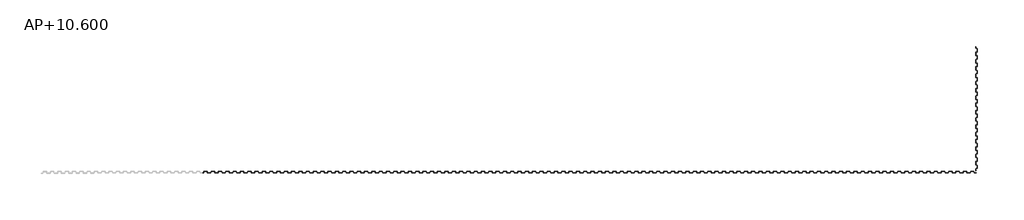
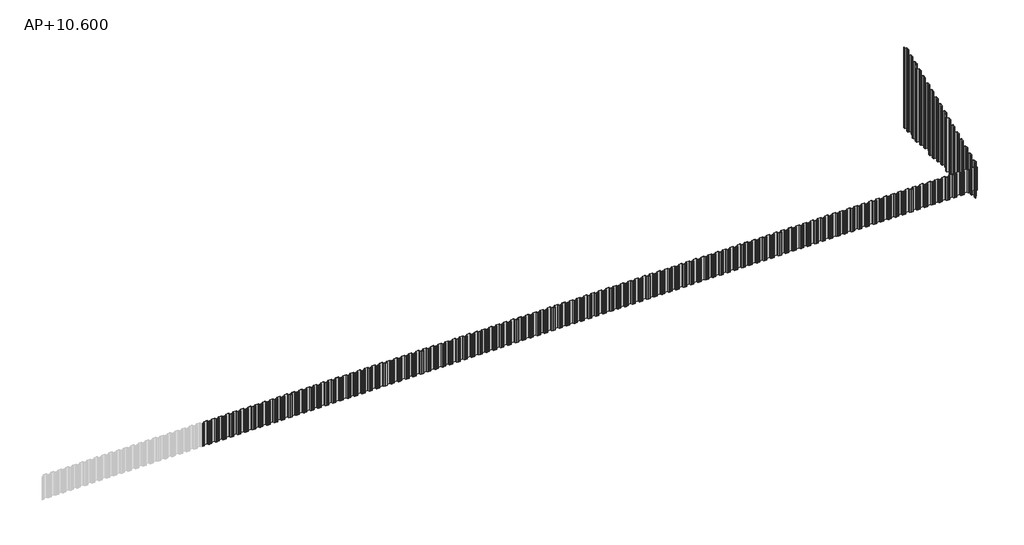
# One storey, part 2 of 2: 123 proxies.
"""IFC4 building model written with IfcOpenShell, lengths in millimetres."""

from ifc_helpers import new_model, si_unit, origin, place, context, project, spatial, transform, mapped, element, save
from components import generic_models_baafeade, generic_models_cdec1266, generic_models_6a52f8d3, generic_models_769bab11, generic_models_eddb28b0, generic_models_b851e550, generic_models_f981eec5, generic_models_fa2cd2e8, generic_models_5c6d3e61, generic_models_5d25678b, generic_models_d380ba2e, generic_models_831c492c, generic_models_77be9fe8, generic_models_16d24312

model = new_model("IFC4")

# Units and contexts
model_context = context("Model", 3, world=origin())
ifc_project = project(units=[si_unit("LENGTHUNIT", "METRE", prefix="MILLI")], contexts=[model_context])

# Site, building, storey
site = spatial("IfcSite", under=ifc_project)
building = spatial("IfcBuilding", under=site)
storey = spatial("IfcBuildingStorey", under=building, Name="AP+10.600", Elevation=10600.0)

# Proxies
placement = place(None, origin())
generic_models_shape = generic_models_baafeade(model_context)
element("IfcBuildingElementProxy", 1, Name="鋼矢板10H型 : 鋼矢板10H型", ObjectType="鋼矢板10H型 : 鋼矢板10H型", at=placement, inside=storey, context=model_context, shape_type="MappedRepresentation", body=[
    mapped(generic_models_shape, transform((89232.0, -15450.0, 9950.0), x_axis=(1.0, 0.0, 0.0), y_axis=(0.0, 1.0, 0.0), z_axis=(0.0, 0.0, 1.0))),
])
element("IfcBuildingElementProxy", 2, Name="鋼矢板10H型 : 鋼矢板10H型", ObjectType="鋼矢板10H型 : 鋼矢板10H型", at=placement, inside=storey, context=model_context, shape_type="MappedRepresentation", body=[
    mapped(generic_models_shape, transform((88332.0, -15450.0, 9950.0), x_axis=(1.0, 0.0, 0.0), y_axis=(0.0, 1.0, 0.0), z_axis=(0.0, 0.0, 1.0))),
])
element("IfcBuildingElementProxy", 3, Name="鋼矢板10H型 : 鋼矢板10H型", ObjectType="鋼矢板10H型 : 鋼矢板10H型", at=placement, inside=storey, context=model_context, shape_type="MappedRepresentation", body=[
    mapped(generic_models_shape, transform((87432.0, -15450.0, 9950.0), x_axis=(1.0, 0.0, 0.0), y_axis=(0.0, 1.0, 0.0), z_axis=(0.0, 0.0, 1.0))),
])
element("IfcBuildingElementProxy", 4, Name="鋼矢板10H型 : 鋼矢板10H型", ObjectType="鋼矢板10H型 : 鋼矢板10H型", at=placement, inside=storey, context=model_context, shape_type="MappedRepresentation", body=[
    mapped(generic_models_shape, transform((86532.0, -15450.0, 9950.0), x_axis=(1.0, 0.0, 0.0), y_axis=(0.0, 1.0, 0.0), z_axis=(0.0, 0.0, 1.0))),
])
element("IfcBuildingElementProxy", 5, Name="鋼矢板10H型 : 鋼矢板10H型", ObjectType="鋼矢板10H型 : 鋼矢板10H型", at=placement, inside=storey, context=model_context, shape_type="MappedRepresentation", body=[
    mapped(generic_models_shape, transform((85632.0, -15450.0, 9950.0), x_axis=(1.0, 0.0, 0.0), y_axis=(0.0, 1.0, 0.0), z_axis=(0.0, 0.0, 1.0))),
])
element("IfcBuildingElementProxy", 6, Name="鋼矢板10H型 : 鋼矢板10H型", ObjectType="鋼矢板10H型 : 鋼矢板10H型", at=placement, inside=storey, context=model_context, shape_type="MappedRepresentation", body=[
    mapped(generic_models_shape, transform((84732.0, -15450.0, 9950.0), x_axis=(1.0, 0.0, 0.0), y_axis=(0.0, 1.0, 0.0), z_axis=(0.0, 0.0, 1.0))),
])
element("IfcBuildingElementProxy", 7, Name="鋼矢板10H型 : 鋼矢板10H型", ObjectType="鋼矢板10H型 : 鋼矢板10H型", at=placement, inside=storey, context=model_context, shape_type="MappedRepresentation", body=[
    mapped(generic_models_shape, transform((83832.0, -15450.0, 9950.0), x_axis=(1.0, 0.0, 0.0), y_axis=(0.0, 1.0, 0.0), z_axis=(0.0, 0.0, 1.0))),
])
element("IfcBuildingElementProxy", 8, Name="鋼矢板10H型 : 鋼矢板10H型", ObjectType="鋼矢板10H型 : 鋼矢板10H型", at=placement, inside=storey, context=model_context, shape_type="MappedRepresentation", body=[
    mapped(generic_models_shape, transform((82932.0, -15450.0, 9950.0), x_axis=(1.0, 0.0, 0.0), y_axis=(0.0, 1.0, 0.0), z_axis=(0.0, 0.0, 1.0))),
])
element("IfcBuildingElementProxy", 9, Name="鋼矢板10H型 : 鋼矢板10H型", ObjectType="鋼矢板10H型 : 鋼矢板10H型", at=placement, inside=storey, context=model_context, shape_type="MappedRepresentation", body=[
    mapped(generic_models_shape, transform((82032.0, -15450.0, 9950.0), x_axis=(1.0, 0.0, 0.0), y_axis=(0.0, 1.0, 0.0), z_axis=(0.0, 0.0, 1.0))),
])
element("IfcBuildingElementProxy", 10, Name="鋼矢板10H型 : 鋼矢板10H型", ObjectType="鋼矢板10H型 : 鋼矢板10H型", at=placement, inside=storey, context=model_context, shape_type="MappedRepresentation", body=[
    mapped(generic_models_shape, transform((81132.0, -15450.0, 9950.0), x_axis=(1.0, 0.0, 0.0), y_axis=(0.0, 1.0, 0.0), z_axis=(0.0, 0.0, 1.0))),
])
element("IfcBuildingElementProxy", 11, Name="鋼矢板10H型 : 鋼矢板10H型", ObjectType="鋼矢板10H型 : 鋼矢板10H型", at=placement, inside=storey, context=model_context, shape_type="MappedRepresentation", body=[
    mapped(generic_models_shape, transform((80232.0, -15450.0, 9950.0), x_axis=(1.0, 0.0, 0.0), y_axis=(0.0, 1.0, 0.0), z_axis=(0.0, 0.0, 1.0))),
])
element("IfcBuildingElementProxy", 12, Name="鋼矢板10H型 : 鋼矢板10H型", ObjectType="鋼矢板10H型 : 鋼矢板10H型", at=placement, inside=storey, context=model_context, shape_type="MappedRepresentation", body=[
    mapped(generic_models_shape, transform((79332.0, -15450.0, 9950.0), x_axis=(1.0, 0.0, 0.0), y_axis=(0.0, 1.0, 0.0), z_axis=(0.0, 0.0, 1.0))),
])
element("IfcBuildingElementProxy", 13, Name="鋼矢板10H型 : 鋼矢板10H型", ObjectType="鋼矢板10H型 : 鋼矢板10H型", at=placement, inside=storey, context=model_context, shape_type="MappedRepresentation", body=[
    mapped(generic_models_shape, transform((78432.0, -15450.0, 9950.0), x_axis=(1.0, 0.0, 0.0), y_axis=(0.0, 1.0, 0.0), z_axis=(0.0, 0.0, 1.0))),
])
element("IfcBuildingElementProxy", 14, Name="鋼矢板10H型 : 鋼矢板10H型", ObjectType="鋼矢板10H型 : 鋼矢板10H型", at=placement, inside=storey, context=model_context, shape_type="MappedRepresentation", body=[
    mapped(generic_models_shape, transform((77532.0, -15450.0, 9950.0), x_axis=(1.0, 0.0, 0.0), y_axis=(0.0, 1.0, 0.0), z_axis=(0.0, 0.0, 1.0))),
])
element("IfcBuildingElementProxy", 15, Name="鋼矢板10H型 : 鋼矢板10H型", ObjectType="鋼矢板10H型 : 鋼矢板10H型", at=placement, inside=storey, context=model_context, shape_type="MappedRepresentation", body=[
    mapped(generic_models_shape, transform((76632.0, -15450.0, 9950.0), x_axis=(1.0, 0.0, 0.0), y_axis=(0.0, 1.0, 0.0), z_axis=(0.0, 0.0, 1.0))),
])
element("IfcBuildingElementProxy", 16, Name="鋼矢板10H型 : 鋼矢板10H型", ObjectType="鋼矢板10H型 : 鋼矢板10H型", at=placement, inside=storey, context=model_context, shape_type="MappedRepresentation", body=[
    mapped(generic_models_shape, transform((75732.0, -15450.0, 9950.0), x_axis=(1.0, 0.0, 0.0), y_axis=(0.0, 1.0, 0.0), z_axis=(0.0, 0.0, 1.0))),
])
element("IfcBuildingElementProxy", 17, Name="鋼矢板10H型 : 鋼矢板10H型", ObjectType="鋼矢板10H型 : 鋼矢板10H型", at=placement, inside=storey, context=model_context, shape_type="MappedRepresentation", body=[
    mapped(generic_models_shape, transform((74832.0, -15450.0, 9950.0), x_axis=(1.0, 0.0, 0.0), y_axis=(0.0, 1.0, 0.0), z_axis=(0.0, 0.0, 1.0))),
])
element("IfcBuildingElementProxy", 18, Name="鋼矢板10H型 : 鋼矢板10H型", ObjectType="鋼矢板10H型 : 鋼矢板10H型", at=placement, inside=storey, context=model_context, shape_type="MappedRepresentation", body=[
    mapped(generic_models_shape, transform((73932.0, -15450.0, 9950.0), x_axis=(1.0, 0.0, 0.0), y_axis=(0.0, 1.0, 0.0), z_axis=(0.0, 0.0, 1.0))),
])
element("IfcBuildingElementProxy", 19, Name="鋼矢板10H型 : 鋼矢板10H型", ObjectType="鋼矢板10H型 : 鋼矢板10H型", at=placement, inside=storey, context=model_context, shape_type="MappedRepresentation", body=[
    mapped(generic_models_shape, transform((73032.0, -15450.0, 9950.0), x_axis=(1.0, 0.0, 0.0), y_axis=(0.0, 1.0, 0.0), z_axis=(0.0, 0.0, 1.0))),
])
element("IfcBuildingElementProxy", 20, Name="鋼矢板10H型 : 鋼矢板10H型", ObjectType="鋼矢板10H型 : 鋼矢板10H型", at=placement, inside=storey, context=model_context, shape_type="MappedRepresentation", body=[
    mapped(generic_models_shape, transform((72132.0, -15450.0, 9950.0), x_axis=(1.0, 0.0, 0.0), y_axis=(0.0, 1.0, 0.0), z_axis=(0.0, 0.0, 1.0))),
])
element("IfcBuildingElementProxy", 21, Name="鋼矢板10H型 : 鋼矢板10H型", ObjectType="鋼矢板10H型 : 鋼矢板10H型", at=placement, inside=storey, context=model_context, shape_type="MappedRepresentation", body=[
    mapped(generic_models_shape, transform((71232.0, -15450.0, 9950.0), x_axis=(1.0, 0.0, 0.0), y_axis=(0.0, 1.0, 0.0), z_axis=(0.0, 0.0, 1.0))),
])
element("IfcBuildingElementProxy", 22, Name="鋼矢板10H型 : 鋼矢板10H型", ObjectType="鋼矢板10H型 : 鋼矢板10H型", at=placement, inside=storey, context=model_context, shape_type="MappedRepresentation", body=[
    mapped(generic_models_shape, transform((70332.0, -15450.0, 9950.0), x_axis=(1.0, 0.0, 0.0), y_axis=(0.0, 1.0, 0.0), z_axis=(0.0, 0.0, 1.0))),
])
element("IfcBuildingElementProxy", 23, Name="鋼矢板10H型 : 鋼矢板10H型", ObjectType="鋼矢板10H型 : 鋼矢板10H型", at=placement, inside=storey, context=model_context, shape_type="MappedRepresentation", body=[
    mapped(generic_models_shape, transform((69432.0, -15450.0, 9950.0), x_axis=(1.0, 0.0, 0.0), y_axis=(0.0, 1.0, 0.0), z_axis=(0.0, 0.0, 1.0))),
])
element("IfcBuildingElementProxy", 24, Name="鋼矢板10H型 : 鋼矢板10H型", ObjectType="鋼矢板10H型 : 鋼矢板10H型", at=placement, inside=storey, context=model_context, shape_type="MappedRepresentation", body=[
    mapped(generic_models_shape, transform((68532.0, -15450.0, 9950.0), x_axis=(1.0, 0.0, 0.0), y_axis=(0.0, 1.0, 0.0), z_axis=(0.0, 0.0, 1.0))),
])
element("IfcBuildingElementProxy", 25, Name="鋼矢板10H型 : 鋼矢板10H型", ObjectType="鋼矢板10H型 : 鋼矢板10H型", at=placement, inside=storey, context=model_context, shape_type="MappedRepresentation", body=[
    mapped(generic_models_shape, transform((67632.0, -15450.0, 9950.0), x_axis=(1.0, 0.0, 0.0), y_axis=(0.0, 1.0, 0.0), z_axis=(0.0, 0.0, 1.0))),
])
element("IfcBuildingElementProxy", 26, Name="鋼矢板10H型 : 鋼矢板10H型", ObjectType="鋼矢板10H型 : 鋼矢板10H型", at=placement, inside=storey, context=model_context, shape_type="MappedRepresentation", body=[
    mapped(generic_models_shape, transform((66732.0, -15450.0, 9950.0), x_axis=(1.0, 0.0, 0.0), y_axis=(0.0, 1.0, 0.0), z_axis=(0.0, 0.0, 1.0))),
])
element("IfcBuildingElementProxy", 27, Name="鋼矢板10H型 : 鋼矢板10H型", ObjectType="鋼矢板10H型 : 鋼矢板10H型", at=placement, inside=storey, context=model_context, shape_type="MappedRepresentation", body=[
    mapped(generic_models_shape, transform((65832.0, -15450.0, 9950.0), x_axis=(1.0, 0.0, 0.0), y_axis=(0.0, 1.0, 0.0), z_axis=(0.0, 0.0, 1.0))),
])
element("IfcBuildingElementProxy", 28, Name="鋼矢板10H型 : 鋼矢板10H型", ObjectType="鋼矢板10H型 : 鋼矢板10H型", at=placement, inside=storey, context=model_context, shape_type="MappedRepresentation", body=[
    mapped(generic_models_shape, transform((64932.0, -15450.0, 9950.0), x_axis=(1.0, 0.0, 0.0), y_axis=(0.0, 1.0, 0.0), z_axis=(0.0, 0.0, 1.0))),
])
element("IfcBuildingElementProxy", 29, Name="鋼矢板10H型 : 鋼矢板10H型", ObjectType="鋼矢板10H型 : 鋼矢板10H型", at=placement, inside=storey, context=model_context, shape_type="MappedRepresentation", body=[
    mapped(generic_models_shape, transform((64032.0, -15450.0, 9950.0), x_axis=(1.0, 0.0, 0.0), y_axis=(0.0, 1.0, 0.0), z_axis=(0.0, 0.0, 1.0))),
])
element("IfcBuildingElementProxy", 30, Name="鋼矢板10H型 : 鋼矢板10H型", ObjectType="鋼矢板10H型 : 鋼矢板10H型", at=placement, inside=storey, context=model_context, shape_type="MappedRepresentation", body=[
    mapped(generic_models_shape, transform((63132.0, -15450.0, 9950.0), x_axis=(1.0, 0.0, 0.0), y_axis=(0.0, 1.0, 0.0), z_axis=(0.0, 0.0, 1.0))),
])
element("IfcBuildingElementProxy", 31, Name="鋼矢板10H型 : 鋼矢板10H型", ObjectType="鋼矢板10H型 : 鋼矢板10H型", at=placement, inside=storey, context=model_context, shape_type="MappedRepresentation", body=[
    mapped(generic_models_shape, transform((62232.0, -15450.0, 9950.0), x_axis=(1.0, 0.0, 0.0), y_axis=(0.0, 1.0, 0.0), z_axis=(0.0, 0.0, 1.0))),
])
element("IfcBuildingElementProxy", 32, Name="鋼矢板10H型 : 鋼矢板10H型", ObjectType="鋼矢板10H型 : 鋼矢板10H型", at=placement, inside=storey, context=model_context, shape_type="MappedRepresentation", body=[
    mapped(generic_models_shape, transform((61332.0, -15450.0, 9950.0), x_axis=(1.0, 0.0, 0.0), y_axis=(0.0, 1.0, 0.0), z_axis=(0.0, 0.0, 1.0))),
])
element("IfcBuildingElementProxy", 33, Name="鋼矢板10H型 : 鋼矢板10H型", ObjectType="鋼矢板10H型 : 鋼矢板10H型", at=placement, inside=storey, context=model_context, shape_type="MappedRepresentation", body=[
    mapped(generic_models_shape, transform((60432.0, -15450.0, 9950.0), x_axis=(1.0, 0.0, 0.0), y_axis=(0.0, 1.0, 0.0), z_axis=(0.0, 0.0, 1.0))),
])
element("IfcBuildingElementProxy", 34, Name="鋼矢板10H型 : 鋼矢板10H型", ObjectType="鋼矢板10H型 : 鋼矢板10H型", at=placement, inside=storey, context=model_context, shape_type="MappedRepresentation", body=[
    mapped(generic_models_shape, transform((59532.0, -15450.0, 9950.0), x_axis=(1.0, 0.0, 0.0), y_axis=(0.0, 1.0, 0.0), z_axis=(0.0, 0.0, 1.0))),
])
element("IfcBuildingElementProxy", 35, Name="鋼矢板10H型 : 鋼矢板10H型", ObjectType="鋼矢板10H型 : 鋼矢板10H型", at=placement, inside=storey, context=model_context, shape_type="MappedRepresentation", body=[
    mapped(generic_models_shape, transform((58632.0, -15450.0, 9950.0), x_axis=(1.0, 0.0, 0.0), y_axis=(0.0, 1.0, 0.0), z_axis=(0.0, 0.0, 1.0))),
])
element("IfcBuildingElementProxy", 36, Name="鋼矢板10H型 : 鋼矢板10H型", ObjectType="鋼矢板10H型 : 鋼矢板10H型", at=placement, inside=storey, context=model_context, shape_type="MappedRepresentation", body=[
    mapped(generic_models_shape, transform((57732.0, -15450.0, 9950.0), x_axis=(1.0, 0.0, 0.0), y_axis=(0.0, 1.0, 0.0), z_axis=(0.0, 0.0, 1.0))),
])
element("IfcBuildingElementProxy", 37, Name="鋼矢板10H型 : 鋼矢板10H型", ObjectType="鋼矢板10H型 : 鋼矢板10H型", at=placement, inside=storey, context=model_context, shape_type="MappedRepresentation", body=[
    mapped(generic_models_shape, transform((56832.0, -15450.0, 9950.0), x_axis=(1.0, 0.0, 0.0), y_axis=(0.0, 1.0, 0.0), z_axis=(0.0, 0.0, 1.0))),
])
element("IfcBuildingElementProxy", 38, Name="鋼矢板10H型 : 鋼矢板10H型", ObjectType="鋼矢板10H型 : 鋼矢板10H型", at=placement, inside=storey, context=model_context, shape_type="MappedRepresentation", body=[
    mapped(generic_models_shape, transform((55932.0, -15450.0, 9950.0), x_axis=(1.0, 0.0, 0.0), y_axis=(0.0, 1.0, 0.0), z_axis=(0.0, 0.0, 1.0))),
])
element("IfcBuildingElementProxy", 39, Name="鋼矢板10H型 : 鋼矢板10H型", ObjectType="鋼矢板10H型 : 鋼矢板10H型", at=placement, inside=storey, context=model_context, shape_type="MappedRepresentation", body=[
    mapped(generic_models_shape, transform((55032.0, -15450.0, 9950.0), x_axis=(1.0, 0.0, 0.0), y_axis=(0.0, 1.0, 0.0), z_axis=(0.0, 0.0, 1.0))),
])
element("IfcBuildingElementProxy", 40, Name="鋼矢板10H型 : 鋼矢板10H型", ObjectType="鋼矢板10H型 : 鋼矢板10H型", at=placement, inside=storey, context=model_context, shape_type="MappedRepresentation", body=[
    mapped(generic_models_shape, transform((54132.0, -15450.0, 9950.0), x_axis=(1.0, 0.0, 0.0), y_axis=(0.0, 1.0, 0.0), z_axis=(0.0, 0.0, 1.0))),
])
element("IfcBuildingElementProxy", 41, Name="鋼矢板10H型 : 鋼矢板10H型", ObjectType="鋼矢板10H型 : 鋼矢板10H型", at=placement, inside=storey, context=model_context, shape_type="MappedRepresentation", body=[
    mapped(generic_models_shape, transform((53232.0, -15450.0, 9950.0), x_axis=(1.0, 0.0, 0.0), y_axis=(0.0, 1.0, 0.0), z_axis=(0.0, 0.0, 1.0))),
])
element("IfcBuildingElementProxy", 42, Name="鋼矢板10H型 : 鋼矢板10H型", ObjectType="鋼矢板10H型 : 鋼矢板10H型", at=placement, inside=storey, context=model_context, shape_type="MappedRepresentation", body=[
    mapped(generic_models_shape, transform((52332.0, -15450.0, 9950.0), x_axis=(1.0, 0.0, 0.0), y_axis=(0.0, 1.0, 0.0), z_axis=(0.0, 0.0, 1.0))),
])
element("IfcBuildingElementProxy", 43, Name="鋼矢板10H型 : 鋼矢板10H型", ObjectType="鋼矢板10H型 : 鋼矢板10H型", at=placement, inside=storey, context=model_context, shape_type="MappedRepresentation", body=[
    mapped(generic_models_shape, transform((51432.0, -15450.0, 9950.0), x_axis=(1.0, 0.0, 0.0), y_axis=(0.0, 1.0, 0.0), z_axis=(0.0, 0.0, 1.0))),
])
element("IfcBuildingElementProxy", 44, Name="鋼矢板10H型 : 鋼矢板10H型", ObjectType="鋼矢板10H型 : 鋼矢板10H型", at=placement, inside=storey, context=model_context, shape_type="MappedRepresentation", body=[
    mapped(generic_models_shape, transform((50532.0, -15450.0, 9950.0), x_axis=(1.0, 0.0, 0.0), y_axis=(0.0, 1.0, 0.0), z_axis=(0.0, 0.0, 1.0))),
])
element("IfcBuildingElementProxy", 45, Name="鋼矢板10H型 : 鋼矢板10H型", ObjectType="鋼矢板10H型 : 鋼矢板10H型", at=placement, inside=storey, context=model_context, shape_type="MappedRepresentation", body=[
    mapped(generic_models_shape, transform((49632.0, -15450.0, 9950.0), x_axis=(1.0, 0.0, 0.0), y_axis=(0.0, 1.0, 0.0), z_axis=(0.0, 0.0, 1.0))),
])
element("IfcBuildingElementProxy", 46, Name="鋼矢板10H型 : 鋼矢板10H型", ObjectType="鋼矢板10H型 : 鋼矢板10H型", at=placement, inside=storey, context=model_context, shape_type="MappedRepresentation", body=[
    mapped(generic_models_shape, transform((48732.0, -15450.0, 9950.0), x_axis=(1.0, 0.0, 0.0), y_axis=(0.0, 1.0, 0.0), z_axis=(0.0, 0.0, 1.0))),
])
element("IfcBuildingElementProxy", 47, Name="鋼矢板10H型 : 鋼矢板10H型", ObjectType="鋼矢板10H型 : 鋼矢板10H型", at=placement, inside=storey, context=model_context, shape_type="MappedRepresentation", body=[
    mapped(generic_models_shape, transform((47832.0, -15450.0, 9950.0), x_axis=(1.0, 0.0, 0.0), y_axis=(0.0, 1.0, 0.0), z_axis=(0.0, 0.0, 1.0))),
])
element("IfcBuildingElementProxy", 48, Name="鋼矢板10H型 : 鋼矢板10H型", ObjectType="鋼矢板10H型 : 鋼矢板10H型", at=placement, inside=storey, context=model_context, shape_type="MappedRepresentation", body=[
    mapped(generic_models_shape, transform((46932.0, -15450.0, 9950.0), x_axis=(1.0, 0.0, 0.0), y_axis=(0.0, 1.0, 0.0), z_axis=(0.0, 0.0, 1.0))),
])
element("IfcBuildingElementProxy", 49, Name="鋼矢板10H型 : 鋼矢板10H型", ObjectType="鋼矢板10H型 : 鋼矢板10H型", at=placement, inside=storey, context=model_context, shape_type="MappedRepresentation", body=[
    mapped(generic_models_shape, transform((46032.0, -15450.0, 9950.0), x_axis=(1.0, 0.0, 0.0), y_axis=(0.0, 1.0, 0.0), z_axis=(0.0, 0.0, 1.0))),
])
element("IfcBuildingElementProxy", 50, Name="鋼矢板10H型 : 鋼矢板10H型", ObjectType="鋼矢板10H型 : 鋼矢板10H型", at=placement, inside=storey, context=model_context, shape_type="MappedRepresentation", body=[
    mapped(generic_models_shape, transform((45132.0, -15450.0, 9950.0), x_axis=(1.0, 0.0, 0.0), y_axis=(0.0, 1.0, 0.0), z_axis=(0.0, 0.0, 1.0))),
])
element("IfcBuildingElementProxy", 51, Name="鋼矢板10H型 : 鋼矢板10H型", ObjectType="鋼矢板10H型 : 鋼矢板10H型", at=placement, inside=storey, context=model_context, shape_type="MappedRepresentation", body=[
    mapped(generic_models_shape, transform((44232.0, -15450.0, 9950.0), x_axis=(1.0, 0.0, 0.0), y_axis=(0.0, 1.0, 0.0), z_axis=(0.0, 0.0, 1.0))),
])
element("IfcBuildingElementProxy", 52, Name="鋼矢板10H型 : 鋼矢板10H型", ObjectType="鋼矢板10H型 : 鋼矢板10H型", at=placement, inside=storey, context=model_context, shape_type="MappedRepresentation", body=[
    mapped(generic_models_shape, transform((43332.0, -15450.0, 9950.0), x_axis=(1.0, 0.0, 0.0), y_axis=(0.0, 1.0, 0.0), z_axis=(0.0, 0.0, 1.0))),
])
element("IfcBuildingElementProxy", 53, Name="鋼矢板10H型 : 鋼矢板10H型", ObjectType="鋼矢板10H型 : 鋼矢板10H型", at=placement, inside=storey, context=model_context, shape_type="MappedRepresentation", body=[
    mapped(generic_models_shape, transform((42432.0, -15450.0, 9950.0), x_axis=(1.0, 0.0, 0.0), y_axis=(0.0, 1.0, 0.0), z_axis=(0.0, 0.0, 1.0))),
])
element("IfcBuildingElementProxy", 54, Name="鋼矢板10H型 : 鋼矢板10H型", ObjectType="鋼矢板10H型 : 鋼矢板10H型", at=placement, inside=storey, context=model_context, shape_type="MappedRepresentation", body=[
    mapped(generic_models_shape, transform((41532.0, -15450.0, 9950.0), x_axis=(1.0, 0.0, 0.0), y_axis=(0.0, 1.0, 0.0), z_axis=(0.0, 0.0, 1.0))),
])
element("IfcBuildingElementProxy", 55, Name="鋼矢板10H型 : 鋼矢板10H型", ObjectType="鋼矢板10H型 : 鋼矢板10H型", at=placement, inside=storey, context=model_context, shape_type="MappedRepresentation", body=[
    mapped(generic_models_shape, transform((40632.0, -15450.0, 9950.0), x_axis=(1.0, 0.0, 0.0), y_axis=(0.0, 1.0, 0.0), z_axis=(0.0, 0.0, 1.0))),
])
element("IfcBuildingElementProxy", 56, Name="鋼矢板10H型 : 鋼矢板10H型", ObjectType="鋼矢板10H型 : 鋼矢板10H型", at=placement, inside=storey, context=model_context, shape_type="MappedRepresentation", body=[
    mapped(generic_models_shape, transform((39732.0, -15450.0, 9950.0), x_axis=(1.0, 0.0, 0.0), y_axis=(0.0, 1.0, 0.0), z_axis=(0.0, 0.0, 1.0))),
])
element("IfcBuildingElementProxy", 57, Name="鋼矢板10H型 : 鋼矢板10H型", ObjectType="鋼矢板10H型 : 鋼矢板10H型", at=placement, inside=storey, context=model_context, shape_type="MappedRepresentation", body=[
    mapped(generic_models_shape, transform((38832.0, -15450.0, 9950.0), x_axis=(1.0, 0.0, 0.0), y_axis=(0.0, 1.0, 0.0), z_axis=(0.0, 0.0, 1.0))),
])
element("IfcBuildingElementProxy", 58, Name="鋼矢板10H型 : 鋼矢板10H型", ObjectType="鋼矢板10H型 : 鋼矢板10H型", at=placement, inside=storey, context=model_context, shape_type="MappedRepresentation", body=[
    mapped(generic_models_shape, transform((37932.0, -15450.0, 9950.0), x_axis=(1.0, 0.0, 0.0), y_axis=(0.0, 1.0, 0.0), z_axis=(0.0, 0.0, 1.0))),
])
element("IfcBuildingElementProxy", 59, Name="鋼矢板10H型 : 鋼矢板10H型", ObjectType="鋼矢板10H型 : 鋼矢板10H型", at=placement, inside=storey, context=model_context, shape_type="MappedRepresentation", body=[
    mapped(generic_models_shape, transform((37032.0, -15450.0, 9950.0), x_axis=(1.0, 0.0, 0.0), y_axis=(0.0, 1.0, 0.0), z_axis=(0.0, 0.0, 1.0))),
])
element("IfcBuildingElementProxy", 60, Name="鋼矢板10H型 : 鋼矢板10H型", ObjectType="鋼矢板10H型 : 鋼矢板10H型", at=placement, inside=storey, context=model_context, shape_type="MappedRepresentation", body=[
    mapped(generic_models_shape, transform((36132.0, -15450.0, 9950.0), x_axis=(1.0, 0.0, 0.0), y_axis=(0.0, 1.0, 0.0), z_axis=(0.0, 0.0, 1.0))),
])
element("IfcBuildingElementProxy", 61, Name="鋼矢板10H型 : 鋼矢板10H型", ObjectType="鋼矢板10H型 : 鋼矢板10H型", at=placement, inside=storey, context=model_context, shape_type="MappedRepresentation", body=[
    mapped(generic_models_shape, transform((35232.0, -15450.0, 9950.0), x_axis=(1.0, 0.0, 0.0), y_axis=(0.0, 1.0, 0.0), z_axis=(0.0, 0.0, 1.0))),
])
element("IfcBuildingElementProxy", 62, Name="鋼矢板10H型 : 鋼矢板10H型", ObjectType="鋼矢板10H型 : 鋼矢板10H型", at=placement, inside=storey, context=model_context, shape_type="MappedRepresentation", body=[
    mapped(generic_models_shape, transform((34332.0, -15450.0, 9950.0), x_axis=(1.0, 0.0, 0.0), y_axis=(0.0, 1.0, 0.0), z_axis=(0.0, 0.0, 1.0))),
])
element("IfcBuildingElementProxy", 63, Name="鋼矢板10H型 : 鋼矢板10H型", ObjectType="鋼矢板10H型 : 鋼矢板10H型", at=placement, inside=storey, context=model_context, shape_type="MappedRepresentation", body=[
    mapped(generic_models_shape, transform((33432.0, -15450.0, 9950.0), x_axis=(1.0, 0.0, 0.0), y_axis=(0.0, 1.0, 0.0), z_axis=(0.0, 0.0, 1.0))),
])
element("IfcBuildingElementProxy", 64, Name="鋼矢板10H型 : 鋼矢板10H型", ObjectType="鋼矢板10H型 : 鋼矢板10H型", at=placement, inside=storey, context=model_context, shape_type="MappedRepresentation", body=[
    mapped(generic_models_shape, transform((32532.0, -15450.0, 9950.0), x_axis=(1.0, 0.0, 0.0), y_axis=(0.0, 1.0, 0.0), z_axis=(0.0, 0.0, 1.0))),
])
element("IfcBuildingElementProxy", 65, Name="鋼矢板10H型 : 鋼矢板10H型", ObjectType="鋼矢板10H型 : 鋼矢板10H型", at=placement, inside=storey, context=model_context, shape_type="MappedRepresentation", body=[
    mapped(generic_models_shape, transform((31632.0, -15450.0, 9950.0), x_axis=(1.0, 0.0, 0.0), y_axis=(0.0, 1.0, 0.0), z_axis=(0.0, 0.0, 1.0))),
])
element("IfcBuildingElementProxy", 66, Name="鋼矢板10H型 : 鋼矢板10H型", ObjectType="鋼矢板10H型 : 鋼矢板10H型", at=placement, inside=storey, context=model_context, shape_type="MappedRepresentation", body=[
    mapped(generic_models_shape, transform((30732.0, -15450.0, 9950.0), x_axis=(1.0, 0.0, 0.0), y_axis=(0.0, 1.0, 0.0), z_axis=(0.0, 0.0, 1.0))),
])
element("IfcBuildingElementProxy", 67, Name="鋼矢板10H型 : 鋼矢板10H型", ObjectType="鋼矢板10H型 : 鋼矢板10H型", at=placement, inside=storey, context=model_context, shape_type="MappedRepresentation", body=[
    mapped(generic_models_shape, transform((29832.0, -15450.0, 9950.0), x_axis=(1.0, 0.0, 0.0), y_axis=(0.0, 1.0, 0.0), z_axis=(0.0, 0.0, 1.0))),
])
element("IfcBuildingElementProxy", 68, Name="鋼矢板10H型 : 鋼矢板10H型", ObjectType="鋼矢板10H型 : 鋼矢板10H型", at=placement, inside=storey, context=model_context, shape_type="MappedRepresentation", body=[
    mapped(generic_models_shape, transform((28932.0, -15450.0, 9950.0), x_axis=(1.0, 0.0, 0.0), y_axis=(0.0, 1.0, 0.0), z_axis=(0.0, 0.0, 1.0))),
])
element("IfcBuildingElementProxy", 69, Name="鋼矢板10H型 : 鋼矢板10H型", ObjectType="鋼矢板10H型 : 鋼矢板10H型", at=placement, inside=storey, context=model_context, shape_type="MappedRepresentation", body=[
    mapped(generic_models_shape, transform((28032.0, -15450.0, 9950.0), x_axis=(1.0, 0.0, 0.0), y_axis=(0.0, 1.0, 0.0), z_axis=(0.0, 0.0, 1.0))),
])
element("IfcBuildingElementProxy", 70, Name="鋼矢板10H型 : 鋼矢板10H型", ObjectType="鋼矢板10H型 : 鋼矢板10H型", at=placement, inside=storey, context=model_context, shape_type="MappedRepresentation", body=[
    mapped(generic_models_shape, transform((27132.0, -15450.0, 9950.0), x_axis=(1.0, 0.0, 0.0), y_axis=(0.0, 1.0, 0.0), z_axis=(0.0, 0.0, 1.0))),
])
element("IfcBuildingElementProxy", 71, Name="鋼矢板10H型 : 鋼矢板10H型", ObjectType="鋼矢板10H型 : 鋼矢板10H型", at=placement, inside=storey, context=model_context, shape_type="MappedRepresentation", body=[
    mapped(generic_models_shape, transform((26232.0, -15450.0, 9950.0), x_axis=(1.0, 0.0, 0.0), y_axis=(0.0, 1.0, 0.0), z_axis=(0.0, 0.0, 1.0))),
])
element("IfcBuildingElementProxy", 72, Name="鋼矢板10H型 : 鋼矢板10H型", ObjectType="鋼矢板10H型 : 鋼矢板10H型", at=placement, inside=storey, context=model_context, shape_type="MappedRepresentation", body=[
    mapped(generic_models_shape, transform((25332.0, -15450.0, 9950.0), x_axis=(1.0, 0.0, 0.0), y_axis=(0.0, 1.0, 0.0), z_axis=(0.0, 0.0, 1.0))),
])
element("IfcBuildingElementProxy", 73, Name="鋼矢板10H型 : 鋼矢板10H型", ObjectType="鋼矢板10H型 : 鋼矢板10H型", at=placement, inside=storey, context=model_context, shape_type="MappedRepresentation", body=[
    mapped(generic_models_shape, transform((24432.0, -15450.0, 9950.0), x_axis=(1.0, 0.0, 0.0), y_axis=(0.0, 1.0, 0.0), z_axis=(0.0, 0.0, 1.0))),
])
element("IfcBuildingElementProxy", 74, Name="鋼矢板10H型 : 鋼矢板10H型", ObjectType="鋼矢板10H型 : 鋼矢板10H型", at=placement, inside=storey, context=model_context, shape_type="MappedRepresentation", body=[
    mapped(generic_models_shape, transform((23532.0, -15450.0, 9950.0), x_axis=(1.0, 0.0, 0.0), y_axis=(0.0, 1.0, 0.0), z_axis=(0.0, 0.0, 1.0))),
])
element("IfcBuildingElementProxy", 75, Name="鋼矢板10H型 : 鋼矢板10H型", ObjectType="鋼矢板10H型 : 鋼矢板10H型", at=placement, inside=storey, context=model_context, shape_type="MappedRepresentation", body=[
    mapped(generic_models_shape, transform((22632.0, -15450.0, 9950.0), x_axis=(1.0, 0.0, 0.0), y_axis=(0.0, 1.0, 0.0), z_axis=(0.0, 0.0, 1.0))),
])
element("IfcBuildingElementProxy", 76, Name="鋼矢板10H型 : 鋼矢板10H型", ObjectType="鋼矢板10H型 : 鋼矢板10H型", at=placement, inside=storey, context=model_context, shape_type="MappedRepresentation", body=[
    mapped(generic_models_shape, transform((21732.0, -15450.0, 9950.0), x_axis=(1.0, 0.0, 0.0), y_axis=(0.0, 1.0, 0.0), z_axis=(0.0, 0.0, 1.0))),
])
element("IfcBuildingElementProxy", 77, Name="鋼矢板10H型 : 鋼矢板10H型", ObjectType="鋼矢板10H型 : 鋼矢板10H型", at=placement, inside=storey, context=model_context, shape_type="MappedRepresentation", body=[
    mapped(generic_models_shape, transform((20832.0, -15450.0, 9950.0), x_axis=(1.0, 0.0, 0.0), y_axis=(0.0, 1.0, 0.0), z_axis=(0.0, 0.0, 1.0))),
])
element("IfcBuildingElementProxy", 78, Name="鋼矢板10H型 : 鋼矢板10H型", ObjectType="鋼矢板10H型 : 鋼矢板10H型", at=placement, inside=storey, context=model_context, shape_type="MappedRepresentation", body=[
    mapped(generic_models_shape, transform((19932.0, -15450.0, 9950.0), x_axis=(1.0, 0.0, 0.0), y_axis=(0.0, 1.0, 0.0), z_axis=(0.0, 0.0, 1.0))),
])
element("IfcBuildingElementProxy", 79, Name="鋼矢板10H型 : 鋼矢板10H型", ObjectType="鋼矢板10H型 : 鋼矢板10H型", at=placement, inside=storey, context=model_context, shape_type="MappedRepresentation", body=[
    mapped(generic_models_shape, transform((19032.0, -15450.0, 9950.0), x_axis=(1.0, 0.0, 0.0), y_axis=(0.0, 1.0, 0.0), z_axis=(0.0, 0.0, 1.0))),
])
element("IfcBuildingElementProxy", 80, Name="鋼矢板10H型 : 鋼矢板10H型", ObjectType="鋼矢板10H型 : 鋼矢板10H型", at=placement, inside=storey, context=model_context, shape_type="MappedRepresentation", body=[
    mapped(generic_models_shape, transform((18132.0, -15450.0, 9950.0), x_axis=(1.0, 0.0, 0.0), y_axis=(0.0, 1.0, 0.0), z_axis=(0.0, 0.0, 1.0))),
])
element("IfcBuildingElementProxy", 81, Name="鋼矢板10H型 : 鋼矢板10H型", ObjectType="鋼矢板10H型 : 鋼矢板10H型", at=placement, inside=storey, context=model_context, shape_type="MappedRepresentation", body=[
    mapped(generic_models_shape, transform((17232.0, -15450.0, 9950.0), x_axis=(1.0, 0.0, 0.0), y_axis=(0.0, 1.0, 0.0), z_axis=(0.0, 0.0, 1.0))),
])
element("IfcBuildingElementProxy", 82, Name="鋼矢板10H型 : 鋼矢板10H型", ObjectType="鋼矢板10H型 : 鋼矢板10H型", at=placement, inside=storey, context=model_context, shape_type="MappedRepresentation", body=[
    mapped(generic_models_shape, transform((16332.0, -15450.0, 9950.0), x_axis=(1.0, 0.0, 0.0), y_axis=(0.0, 1.0, 0.0), z_axis=(0.0, 0.0, 1.0))),
])
element("IfcBuildingElementProxy", 83, Name="鋼矢板10H型 : 鋼矢板10H型", ObjectType="鋼矢板10H型 : 鋼矢板10H型", at=placement, inside=storey, context=model_context, shape_type="MappedRepresentation", body=[
    mapped(generic_models_shape, transform((15432.0, -15450.0, 9950.0), x_axis=(1.0, 0.0, 0.0), y_axis=(0.0, 1.0, 0.0), z_axis=(0.0, 0.0, 1.0))),
])
element("IfcBuildingElementProxy", 84, Name="鋼矢板10H型 : 鋼矢板10H型", ObjectType="鋼矢板10H型 : 鋼矢板10H型", at=placement, inside=storey, context=model_context, shape_type="MappedRepresentation", body=[
    mapped(generic_models_shape, transform((14532.0, -15450.0, 9950.0), x_axis=(1.0, 0.0, 0.0), y_axis=(0.0, 1.0, 0.0), z_axis=(0.0, 0.0, 1.0))),
])
element("IfcBuildingElementProxy", 85, Name="鋼矢板10H型 : 鋼矢板10H型", ObjectType="鋼矢板10H型 : 鋼矢板10H型", at=placement, inside=storey, context=model_context, shape_type="MappedRepresentation", body=[
    mapped(generic_models_shape, transform((13632.0, -15450.0, 9950.0), x_axis=(1.0, 0.0, 0.0), y_axis=(0.0, 1.0, 0.0), z_axis=(0.0, 0.0, 1.0))),
])
element("IfcBuildingElementProxy", 86, Name="鋼矢板10H型 : 鋼矢板10H型", ObjectType="鋼矢板10H型 : 鋼矢板10H型", at=placement, inside=storey, context=model_context, shape_type="MappedRepresentation", body=[
    mapped(generic_models_shape, transform((12732.0, -15450.0, 9950.0), x_axis=(1.0, 0.0, 0.0), y_axis=(0.0, 1.0, 0.0), z_axis=(0.0, 0.0, 1.0))),
])
element("IfcBuildingElementProxy", 87, Name="鋼矢板10H型 : 鋼矢板10H型", ObjectType="鋼矢板10H型 : 鋼矢板10H型", at=placement, inside=storey, context=model_context, shape_type="MappedRepresentation", body=[
    mapped(generic_models_shape, transform((11832.0, -15450.0, 9950.0), x_axis=(1.0, 0.0, 0.0), y_axis=(0.0, 1.0, 0.0), z_axis=(0.0, 0.0, 1.0))),
])
element("IfcBuildingElementProxy", 88, Name="鋼矢板10H型 : 鋼矢板10H型", ObjectType="鋼矢板10H型 : 鋼矢板10H型", at=placement, inside=storey, context=model_context, shape_type="MappedRepresentation", body=[
    mapped(generic_models_shape, transform((10932.0, -15450.0, 9950.0), x_axis=(1.0, 0.0, 0.0), y_axis=(0.0, 1.0, 0.0), z_axis=(0.0, 0.0, 1.0))),
])
element("IfcBuildingElementProxy", 89, Name="鋼矢板10H型 : 鋼矢板10H型", ObjectType="鋼矢板10H型 : 鋼矢板10H型", at=placement, inside=storey, context=model_context, shape_type="MappedRepresentation", body=[
    mapped(generic_models_shape, transform((10032.0, -15450.0, 9950.0), x_axis=(1.0, 0.0, 0.0), y_axis=(0.0, 1.0, 0.0), z_axis=(0.0, 0.0, 1.0))),
])
element("IfcBuildingElementProxy", 90, Name="鋼矢板10H型 : 鋼矢板10H型", ObjectType="鋼矢板10H型 : 鋼矢板10H型", at=placement, inside=storey, context=model_context, shape_type="MappedRepresentation", body=[
    mapped(generic_models_shape, transform((9132.0, -15450.0, 9950.0), x_axis=(1.0, 0.0, 0.0), y_axis=(0.0, 1.0, 0.0), z_axis=(0.0, 0.0, 1.0))),
])
element("IfcBuildingElementProxy", 91, Name="鋼矢板10H型 : 鋼矢板10H型", ObjectType="鋼矢板10H型 : 鋼矢板10H型", at=placement, inside=storey, context=model_context, shape_type="MappedRepresentation", body=[
    mapped(generic_models_shape, transform((8232.0, -15450.0, 9950.0), x_axis=(1.0, 0.0, 0.0), y_axis=(0.0, 1.0, 0.0), z_axis=(0.0, 0.0, 1.0))),
])
element("IfcBuildingElementProxy", 92, Name="鋼矢板10H型 : 鋼矢板10H型", ObjectType="鋼矢板10H型 : 鋼矢板10H型", at=placement, inside=storey, context=model_context, shape_type="MappedRepresentation", body=[
    mapped(generic_models_shape, transform((7332.0, -15450.0, 9950.0), x_axis=(1.0, 0.0, 0.0), y_axis=(0.0, 1.0, 0.0), z_axis=(0.0, 0.0, 1.0))),
])
element("IfcBuildingElementProxy", 93, Name="鋼矢板10H型 : 鋼矢板10H型", ObjectType="鋼矢板10H型 : 鋼矢板10H型", at=placement, inside=storey, context=model_context, shape_type="MappedRepresentation", body=[
    mapped(generic_models_shape, transform((6432.0, -15450.0, 9950.0), x_axis=(1.0, 0.0, 0.0), y_axis=(0.0, 1.0, 0.0), z_axis=(0.0, 0.0, 1.0))),
])
element("IfcBuildingElementProxy", 94, Name="鋼矢板10H型 : 鋼矢板10H型", ObjectType="鋼矢板10H型 : 鋼矢板10H型", at=placement, inside=storey, context=model_context, shape_type="MappedRepresentation", body=[
    mapped(generic_models_shape, transform((5532.0, -15450.0, 9950.0), x_axis=(1.0, 0.0, 0.0), y_axis=(0.0, 1.0, 0.0), z_axis=(0.0, 0.0, 1.0))),
])
element("IfcBuildingElementProxy", 95, Name="鋼矢板10H型 : 鋼矢板10H型", ObjectType="鋼矢板10H型 : 鋼矢板10H型", at=placement, inside=storey, context=model_context, shape_type="MappedRepresentation", body=[
    mapped(generic_models_shape, transform((4632.0, -15450.0, 9950.0), x_axis=(1.0, 0.0, 0.0), y_axis=(0.0, 1.0, 0.0), z_axis=(0.0, 0.0, 1.0))),
])
element("IfcBuildingElementProxy", 96, Name="鋼矢板10H型 : 鋼矢板10H型", ObjectType="鋼矢板10H型 : 鋼矢板10H型", at=placement, inside=storey, context=model_context, shape_type="MappedRepresentation", body=[
    mapped(generic_models_shape, transform((3732.0, -15450.0, 9950.0), x_axis=(1.0, 0.0, 0.0), y_axis=(0.0, 1.0, 0.0), z_axis=(0.0, 0.0, 1.0))),
])
element("IfcBuildingElementProxy", 97, Name="鋼矢板10H型 : 鋼矢板10H型", ObjectType="鋼矢板10H型 : 鋼矢板10H型", at=placement, inside=storey, context=model_context, shape_type="MappedRepresentation", body=[
    mapped(generic_models_shape, transform((2832.0, -15450.0, 9950.0), x_axis=(1.0, 0.0, 0.0), y_axis=(0.0, 1.0, 0.0), z_axis=(0.0, 0.0, 1.0))),
])
element("IfcBuildingElementProxy", 98, Name="鋼矢板10H型 : 鋼矢板10H型", ObjectType="鋼矢板10H型 : 鋼矢板10H型", at=placement, inside=storey, context=model_context, shape_type="MappedRepresentation", body=[
    mapped(generic_models_shape, transform((1932.0, -15450.0, 9950.0), x_axis=(1.0, 0.0, 0.0), y_axis=(0.0, 1.0, 0.0), z_axis=(0.0, 0.0, 1.0))),
])
element("IfcBuildingElementProxy", 99, Name="鋼矢板10H型 : 鋼矢板10H型", ObjectType="鋼矢板10H型 : 鋼矢板10H型", at=placement, inside=storey, context=model_context, shape_type="MappedRepresentation", body=[
    mapped(generic_models_shape, transform((1032.0, -15450.0, 9950.0), x_axis=(1.0, 0.0, 0.0), y_axis=(0.0, 1.0, 0.0), z_axis=(0.0, 0.0, 1.0))),
])
element("IfcBuildingElementProxy", 100, Name="鋼矢板10H型 : 鋼矢板10H型", ObjectType="鋼矢板10H型 : 鋼矢板10H型", at=placement, inside=storey, context=model_context, shape_type="MappedRepresentation", body=[
    mapped(generic_models_shape, transform((132.0, -15450.0, 9950.0), x_axis=(1.0, 0.0, 0.0), y_axis=(0.0, 1.0, 0.0), z_axis=(0.0, 0.0, 1.0))),
])
element("IfcBuildingElementProxy", 101, Name="鋼矢板10H型 : 鋼矢板10H型", ObjectType="鋼矢板10H型 : 鋼矢板10H型", at=placement, inside=storey, context=model_context, shape_type="MappedRepresentation", body=[
    mapped(generic_models_shape, transform((-768.0, -15450.0, 9950.0), x_axis=(1.0, 0.0, 0.0), y_axis=(0.0, 1.0, 0.0), z_axis=(0.0, 0.0, 1.0))),
])
element("IfcBuildingElementProxy", 102, Name="鋼矢板10H型 : 鋼矢板10H型", ObjectType="鋼矢板10H型 : 鋼矢板10H型", at=placement, inside=storey, context=model_context, shape_type="MappedRepresentation", body=[
    mapped(generic_models_shape, transform((-1668.0, -15450.0, 9950.0), x_axis=(1.0, 0.0, 0.0), y_axis=(0.0, 1.0, 0.0), z_axis=(0.0, 0.0, 1.0))),
])
element("IfcBuildingElementProxy", 103, Name="鋼矢板10H型 : 鋼矢板10H型", ObjectType="鋼矢板10H型 : 鋼矢板10H型", at=placement, inside=storey, context=model_context, shape_type="MappedRepresentation", body=[
    mapped(generic_models_shape, transform((-2568.0, -15450.0, 9950.0), x_axis=(1.0, 0.0, 0.0), y_axis=(0.0, 1.0, 0.0), z_axis=(0.0, 0.0, 1.0))),
])
element("IfcBuildingElementProxy", 104, Name="鋼矢板10H型 : 鋼矢板10H型", ObjectType="鋼矢板10H型 : 鋼矢板10H型", at=placement, inside=storey, context=model_context, shape_type="MappedRepresentation", body=[
    mapped(generic_models_shape, transform((-3468.0, -15450.0, 9950.0), x_axis=(1.0, 0.0, 0.0), y_axis=(0.0, 1.0, 0.0), z_axis=(0.0, 0.0, 1.0))),
])
element("IfcBuildingElementProxy", 105, Name="鋼矢板10H型 : 鋼矢板10H型", ObjectType="鋼矢板10H型 : 鋼矢板10H型", at=placement, inside=storey, context=model_context, shape_type="MappedRepresentation", body=[
    mapped(generic_models_shape, transform((-4368.0, -15450.0, 9950.0), x_axis=(1.0, 0.0, 0.0), y_axis=(0.0, 1.0, 0.0), z_axis=(0.0, 0.0, 1.0))),
])
element("IfcBuildingElementProxy", 106, Name="鋼矢板10H型 : 鋼矢板10H型", ObjectType="鋼矢板10H型 : 鋼矢板10H型", at=placement, inside=storey, context=model_context, shape_type="MappedRepresentation", body=[
    mapped(generic_models_shape, transform((-5268.0, -15450.0, 9950.0), x_axis=(1.0, 0.0, 0.0), y_axis=(0.0, 1.0, 0.0), z_axis=(0.0, 0.0, 1.0))),
])
generic_models_2_shape = generic_models_cdec1266(model_context)
element("IfcBuildingElementProxy", 107, Name="鋼矢板10H型 : 鋼矢板10H型", ObjectType="鋼矢板10H型 : 鋼矢板10H型", at=placement, inside=storey, context=model_context, shape_type="MappedRepresentation", body=[
    mapped(generic_models_2_shape, transform((89754.0, -14795.0, 10247.2776843), x_axis=(0.0, -1.0, 0.0), y_axis=(1.0, 0.0, 0.0), z_axis=(0.0, 0.0, 1.0))),
])
generic_models_3_shape = generic_models_6a52f8d3(model_context)
element("IfcBuildingElementProxy", 108, Name="鋼矢板10H型 : 鋼矢板10H型", ObjectType="鋼矢板10H型 : 鋼矢板10H型", at=placement, inside=storey, context=model_context, shape_type="MappedRepresentation", body=[
    mapped(generic_models_3_shape, transform((89754.0, -13895.0, 10615.1526843), x_axis=(0.0, -1.0, 0.0), y_axis=(1.0, 0.0, 0.0), z_axis=(0.0, 0.0, 1.0))),
])
generic_models_4_shape = generic_models_769bab11(model_context)
element("IfcBuildingElementProxy", 109, Name="鋼矢板10H型 : 鋼矢板10H型", ObjectType="鋼矢板10H型 : 鋼矢板10H型", at=placement, inside=storey, context=model_context, shape_type="MappedRepresentation", body=[
    mapped(generic_models_4_shape, transform((89754.0, -12995.0, 10983.0526843), x_axis=(0.0, -1.0, 0.0), y_axis=(1.0, 0.0, 0.0), z_axis=(0.0, 0.0, 1.0))),
])
generic_models_5_shape = generic_models_eddb28b0(model_context)
element("IfcBuildingElementProxy", 110, Name="鋼矢板10H型 : 鋼矢板10H型", ObjectType="鋼矢板10H型 : 鋼矢板10H型", at=placement, inside=storey, context=model_context, shape_type="MappedRepresentation", body=[
    mapped(generic_models_5_shape, transform((89754.0, -11195.0, 11718.8526843), x_axis=(0.0, -1.0, 0.0), y_axis=(1.0, 0.0, 0.0), z_axis=(0.0, 0.0, 1.0))),
])
element("IfcBuildingElementProxy", 111, Name="鋼矢板10H型 : 鋼矢板10H型", ObjectType="鋼矢板10H型 : 鋼矢板10H型", at=placement, inside=storey, context=model_context, shape_type="MappedRepresentation", body=[
    mapped(generic_models_5_shape, transform((89754.0, -12095.0, 11350.9526843), x_axis=(0.0, -1.0, 0.0), y_axis=(1.0, 0.0, 0.0), z_axis=(0.0, 0.0, 1.0))),
])
generic_models_6_shape = generic_models_b851e550(model_context)
element("IfcBuildingElementProxy", 112, Name="鋼矢板10H型 : 鋼矢板10H型", ObjectType="鋼矢板10H型 : 鋼矢板10H型", at=placement, inside=storey, context=model_context, shape_type="MappedRepresentation", body=[
    mapped(generic_models_6_shape, transform((89754.0, -10295.0, 12086.7526843), x_axis=(0.0, -1.0, 0.0), y_axis=(1.0, 0.0, 0.0), z_axis=(0.0, 0.0, 1.0))),
])
generic_models_7_shape = generic_models_f981eec5(model_context)
element("IfcBuildingElementProxy", 113, Name="鋼矢板10H型 : 鋼矢板10H型", ObjectType="鋼矢板10H型 : 鋼矢板10H型", at=placement, inside=storey, context=model_context, shape_type="MappedRepresentation", body=[
    mapped(generic_models_7_shape, transform((89754.0, -8495.0, 12822.5526843), x_axis=(0.0, -1.0, 0.0), y_axis=(1.0, 0.0, 0.0), z_axis=(0.0, 0.0, 1.0))),
])
element("IfcBuildingElementProxy", 114, Name="鋼矢板10H型 : 鋼矢板10H型", ObjectType="鋼矢板10H型 : 鋼矢板10H型", at=placement, inside=storey, context=model_context, shape_type="MappedRepresentation", body=[
    mapped(generic_models_7_shape, transform((89754.0, -9395.0, 12454.6526843), x_axis=(0.0, -1.0, 0.0), y_axis=(1.0, 0.0, 0.0), z_axis=(0.0, 0.0, 1.0))),
])
generic_models_8_shape = generic_models_fa2cd2e8(model_context)
element("IfcBuildingElementProxy", 115, Name="鋼矢板10H型 : 鋼矢板10H型", ObjectType="鋼矢板10H型 : 鋼矢板10H型", at=placement, inside=storey, context=model_context, shape_type="MappedRepresentation", body=[
    mapped(generic_models_8_shape, transform((89754.0, -7595.0, 13190.4526843), x_axis=(0.0, -1.0, 0.0), y_axis=(1.0, 0.0, 0.0), z_axis=(0.0, 0.0, 1.0))),
])
generic_models_9_shape = generic_models_5c6d3e61(model_context)
element("IfcBuildingElementProxy", 116, Name="鋼矢板10H型 : 鋼矢板10H型", ObjectType="鋼矢板10H型 : 鋼矢板10H型", at=placement, inside=storey, context=model_context, shape_type="MappedRepresentation", body=[
    mapped(generic_models_9_shape, transform((89754.0, -6695.0, 13558.3526843), x_axis=(0.0, -1.0, 0.0), y_axis=(1.0, 0.0, 0.0), z_axis=(0.0, 0.0, 1.0))),
])
generic_models_10_shape = generic_models_5d25678b(model_context)
element("IfcBuildingElementProxy", 117, Name="鋼矢板10H型 : 鋼矢板10H型", ObjectType="鋼矢板10H型 : 鋼矢板10H型", at=placement, inside=storey, context=model_context, shape_type="MappedRepresentation", body=[
    mapped(generic_models_10_shape, transform((89754.0, -4895.0, 14294.1526843), x_axis=(0.0, -1.0, 0.0), y_axis=(1.0, 0.0, 0.0), z_axis=(0.0, 0.0, 1.0))),
])
element("IfcBuildingElementProxy", 118, Name="鋼矢板10H型 : 鋼矢板10H型", ObjectType="鋼矢板10H型 : 鋼矢板10H型", at=placement, inside=storey, context=model_context, shape_type="MappedRepresentation", body=[
    mapped(generic_models_10_shape, transform((89754.0, -5795.0, 13926.2526843), x_axis=(0.0, -1.0, 0.0), y_axis=(1.0, 0.0, 0.0), z_axis=(0.0, 0.0, 1.0))),
])
generic_models_11_shape = generic_models_d380ba2e(model_context)
element("IfcBuildingElementProxy", 119, Name="鋼矢板10H型 : 鋼矢板10H型", ObjectType="鋼矢板10H型 : 鋼矢板10H型", at=placement, inside=storey, context=model_context, shape_type="MappedRepresentation", body=[
    mapped(generic_models_11_shape, transform((89754.0, -3995.0, 14662.0526843), x_axis=(0.0, -1.0, 0.0), y_axis=(1.0, 0.0, 0.0), z_axis=(0.0, 0.0, 1.0))),
])
generic_models_12_shape = generic_models_831c492c(model_context)
element("IfcBuildingElementProxy", 120, Name="鋼矢板10H型 : 鋼矢板10H型", ObjectType="鋼矢板10H型 : 鋼矢板10H型", at=placement, inside=storey, context=model_context, shape_type="MappedRepresentation", body=[
    mapped(generic_models_12_shape, transform((89754.0, -3095.0, 15029.9526843), x_axis=(0.0, -1.0, 0.0), y_axis=(1.0, 0.0, 0.0), z_axis=(0.0, 0.0, 1.0))),
])
generic_models_13_shape = generic_models_77be9fe8(model_context)
element("IfcBuildingElementProxy", 121, Name="鋼矢板10H型 : 鋼矢板10H型", ObjectType="鋼矢板10H型 : 鋼矢板10H型", at=placement, inside=storey, context=model_context, shape_type="MappedRepresentation", body=[
    mapped(generic_models_13_shape, transform((89754.0, -1295.0, 15765.7526843), x_axis=(0.0, -1.0, 0.0), y_axis=(1.0, 0.0, 0.0), z_axis=(0.0, 0.0, 1.0))),
])
element("IfcBuildingElementProxy", 122, Name="鋼矢板10H型 : 鋼矢板10H型", ObjectType="鋼矢板10H型 : 鋼矢板10H型", at=placement, inside=storey, context=model_context, shape_type="MappedRepresentation", body=[
    mapped(generic_models_13_shape, transform((89754.0, -2195.0, 15397.8526843), x_axis=(0.0, -1.0, 0.0), y_axis=(1.0, 0.0, 0.0), z_axis=(0.0, 0.0, 1.0))),
])
generic_models_14_shape = generic_models_16d24312(model_context)
element("IfcBuildingElementProxy", 123, Name="鋼矢板10H型 : 鋼矢板10H型", ObjectType="鋼矢板10H型 : 鋼矢板10H型", at=placement, inside=storey, context=model_context, shape_type="MappedRepresentation", body=[
    mapped(generic_models_14_shape, transform((89754.0, -395.0, 16131.2339343), x_axis=(0.0, -1.0, 0.0), y_axis=(1.0, 0.0, 0.0), z_axis=(0.0, 0.0, 1.0))),
])

save(model, "model.ifc")
